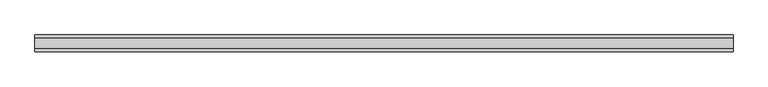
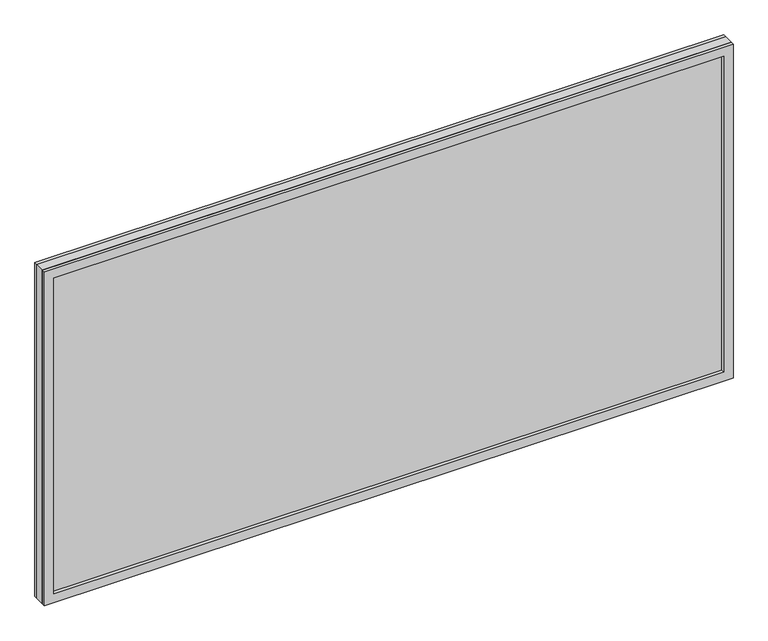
"""IFC4 building model written with IfcOpenShell, lengths in millimetres: plate geometry, ARQ-PA-IN-Vidrio Fijo : ARQ-PA-IN-Vidrio Fijo."""

from ifc_helpers import new_model, si_unit, frame, origin, origin_with_axes, place, context, project, spatial, polyline, outline, extrude, source, transform, mapped, element, save


def plate_90a0065f(model_context):
    return source(origin(), model_context, "Body", "SweptSolid", [
        extrude(outline(polyline([(731.9998038, -10.0), (-731.9998038, -10.0), (-731.9998038, 10.0), (731.9998038, 10.0), (731.9998038, -10.0)])), origin_with_axes(), (0.0, 0.0, 1.0), 750.0),
        extrude(outline(polyline([(750.0, -731.9998038), (0.0, -731.9998038), (0.0, 731.9998038), (750.0, 731.9998038), (750.0, -731.9998038)]), holes=[polyline([(730.0, -711.9998038), (730.0, 711.9998038), (20.0, 711.9998038), (20.0, -711.9998038), (730.0, -711.9998038)])]), frame((0.0, -17.5, 0.0), z_axis=(0.0, 1.0, 0.0), x_axis=(0.0, 0.0, 1.0)), (0.0, 0.0, 1.0), 35.0),
    ])


if __name__ == "__main__":
    model = new_model("IFC4")
    model_context = context("Model", 3, world=origin())
    ifc_project = project(units=[si_unit("LENGTHUNIT", "METRE", prefix="MILLI")], contexts=[model_context])
    site = spatial("IfcSite", under=ifc_project)
    building = spatial("IfcBuilding", under=site)
    placement = place(None, origin())
    plate_shape = plate_90a0065f(model_context)
    element("IfcPlate", 1, ObjectType="ARQ-PA-IN-Vidrio Fijo : ARQ-PA-IN-Vidrio Fijo", at=placement, inside=building, context=model_context, shape_type="MappedRepresentation", body=[
        mapped(plate_shape, transform((0.0, 0.0, 0.0), x_axis=(1.0, 0.0, 0.0), y_axis=(0.0, 1.0, 0.0), z_axis=(0.0, 0.0, 1.0))),
    ])
    save(model, "model.ifc")
